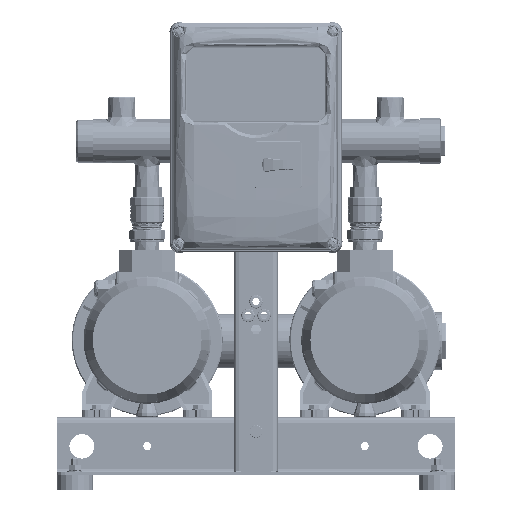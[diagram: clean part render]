
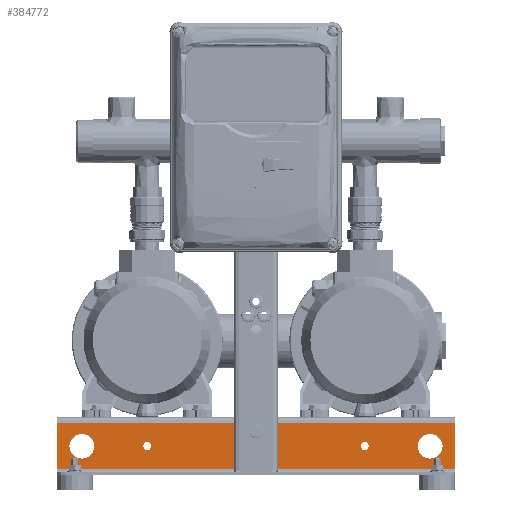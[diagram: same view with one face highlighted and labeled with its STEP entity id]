
A CAD part, top view. The second image highlights one B-rep face of the part: STEP entity #384772.
In plain terms, the highlighted planar face has unit normal (0, 0, 1) as drawn and (0, 0, -1) by its records, which use the part's own axes.
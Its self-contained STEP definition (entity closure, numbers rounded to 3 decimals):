
#378503=DIRECTION('',(1.,0.,0.));
#378504=VECTOR('',#378503,550.);
#378505=CARTESIAN_POINT('',(-275.,-8.,-150.));
#378506=LINE('',#378505,#378504);
#380733=DIRECTION('',(0.,1.,0.));
#380734=VECTOR('',#380733,64.);
#380735=CARTESIAN_POINT('',(-275.,-72.,-150.));
#380736=LINE('',#380735,#380734);
#380754=DIRECTION('',(1.,0.,0.));
#380755=VECTOR('',#380754,550.);
#380756=CARTESIAN_POINT('',(-275.,-72.,-150.));
#380757=LINE('',#380756,#380755);
#380784=DIRECTION('',(0.,1.,0.));
#380785=VECTOR('',#380784,26.);
#380786=CARTESIAN_POINT('',(-26.7,-40.,-150.));
#380787=LINE('',#380786,#380785);
#380791=DIRECTION('',(1.,0.,0.));
#380792=VECTOR('',#380791,3.6);
#380793=CARTESIAN_POINT('',(-30.3,-40.,-150.));
#380794=LINE('',#380793,#380792);
#380798=DIRECTION('',(0.,-1.,0.));
#380799=VECTOR('',#380798,26.);
#380800=CARTESIAN_POINT('',(-30.3,-14.,-150.));
#380801=LINE('',#380800,#380799);
#380805=DIRECTION('',(-1.,0.,0.));
#380806=VECTOR('',#380805,3.6);
#380807=CARTESIAN_POINT('',(-26.7,-14.,-150.));
#380808=LINE('',#380807,#380806);
#380812=DIRECTION('',(0.,1.,0.));
#380813=VECTOR('',#380812,26.);
#380814=CARTESIAN_POINT('',(30.3,-40.,-150.));
#380815=LINE('',#380814,#380813);
#380819=DIRECTION('',(1.,0.,0.));
#380820=VECTOR('',#380819,3.6);
#380821=CARTESIAN_POINT('',(26.7,-40.,-150.));
#380822=LINE('',#380821,#380820);
#380826=DIRECTION('',(0.,-1.,0.));
#380827=VECTOR('',#380826,26.);
#380828=CARTESIAN_POINT('',(26.7,-14.,-150.));
#380829=LINE('',#380828,#380827);
#380833=DIRECTION('',(-1.,0.,0.));
#380834=VECTOR('',#380833,3.6);
#380835=CARTESIAN_POINT('',(30.3,-14.,-150.));
#380836=LINE('',#380835,#380834);
#380840=CARTESIAN_POINT('',(0.,-20.,-150.));
#380841=DIRECTION('',(0.,0.,-1.));
#380842=DIRECTION('',(1.,0.,0.));
#380843=AXIS2_PLACEMENT_3D('',#380840,#380841,#380842);
#380848=CARTESIAN_POINT('',(0.,-20.,-150.));
#380849=DIRECTION('',(0.,0.,-1.));
#380850=DIRECTION('',(-1.,0.,0.));
#380851=AXIS2_PLACEMENT_3D('',#380848,#380849,#380850);
#380856=CARTESIAN_POINT('',(-240.,-40.,-150.));
#380857=DIRECTION('',(0.,0.,1.));
#380858=DIRECTION('',(-1.,0.,0.));
#380859=AXIS2_PLACEMENT_3D('',#380856,#380857,#380858);
#380864=CARTESIAN_POINT('',(-240.,-40.,-150.));
#380865=DIRECTION('',(0.,0.,1.));
#380866=DIRECTION('',(1.,0.,0.));
#380867=AXIS2_PLACEMENT_3D('',#380864,#380865,#380866);
#380872=CARTESIAN_POINT('',(240.,-40.,-150.));
#380873=DIRECTION('',(0.,0.,1.));
#380874=DIRECTION('',(-1.,0.,0.));
#380875=AXIS2_PLACEMENT_3D('',#380872,#380873,#380874);
#380880=CARTESIAN_POINT('',(240.,-40.,-150.));
#380881=DIRECTION('',(0.,0.,1.));
#380882=DIRECTION('',(1.,0.,0.));
#380883=AXIS2_PLACEMENT_3D('',#380880,#380881,#380882);
#380888=CARTESIAN_POINT('',(-150.,-40.,-150.));
#380889=DIRECTION('',(0.,0.,1.));
#380890=DIRECTION('',(1.,0.,0.));
#380891=AXIS2_PLACEMENT_3D('',#380888,#380889,#380890);
#380896=CARTESIAN_POINT('',(-150.,-40.,-150.));
#380897=DIRECTION('',(0.,0.,1.));
#380898=DIRECTION('',(-1.,0.,0.));
#380899=AXIS2_PLACEMENT_3D('',#380896,#380897,#380898);
#380904=CARTESIAN_POINT('',(150.,-40.,-150.));
#380905=DIRECTION('',(0.,0.,-1.));
#380906=DIRECTION('',(-1.,0.,0.));
#380907=AXIS2_PLACEMENT_3D('',#380904,#380905,#380906);
#380912=CARTESIAN_POINT('',(150.,-40.,-150.));
#380913=DIRECTION('',(0.,0.,-1.));
#380914=DIRECTION('',(1.,0.,0.));
#380915=AXIS2_PLACEMENT_3D('',#380912,#380913,#380914);
#380934=DIRECTION('',(0.,1.,0.));
#380935=VECTOR('',#380934,64.);
#380936=CARTESIAN_POINT('',(275.,-72.,-150.));
#380937=LINE('',#380936,#380935);
#382499=CARTESIAN_POINT('',(-275.,-72.,-150.));
#382500=CARTESIAN_POINT('',(-275.,-8.,-150.));
#382501=VERTEX_POINT('',#382499);
#382502=VERTEX_POINT('',#382500);
#382503=CARTESIAN_POINT('',(275.,-72.,-150.));
#382504=CARTESIAN_POINT('',(275.,-8.,-150.));
#382505=VERTEX_POINT('',#382503);
#382506=VERTEX_POINT('',#382504);
#382859=CARTESIAN_POINT('',(-26.7,-40.,-150.));
#382860=CARTESIAN_POINT('',(-26.7,-14.,-150.));
#382861=VERTEX_POINT('',#382859);
#382862=VERTEX_POINT('',#382860);
#382863=CARTESIAN_POINT('',(-30.3,-14.,-150.));
#382864=VERTEX_POINT('',#382863);
#382865=CARTESIAN_POINT('',(-30.3,-40.,-150.));
#382866=VERTEX_POINT('',#382865);
#382867=CARTESIAN_POINT('',(30.3,-40.,-150.));
#382868=CARTESIAN_POINT('',(30.3,-14.,-150.));
#382869=VERTEX_POINT('',#382867);
#382870=VERTEX_POINT('',#382868);
#382871=CARTESIAN_POINT('',(26.7,-14.,-150.));
#382872=VERTEX_POINT('',#382871);
#382873=CARTESIAN_POINT('',(26.7,-40.,-150.));
#382874=VERTEX_POINT('',#382873);
#382891=CARTESIAN_POINT('',(6.25,-20.,-150.));
#382892=CARTESIAN_POINT('',(-6.25,-20.,-150.));
#382893=VERTEX_POINT('',#382891);
#382894=VERTEX_POINT('',#382892);
#382915=CARTESIAN_POINT('',(-257.5,-40.,-150.));
#382916=CARTESIAN_POINT('',(-222.5,-40.,-150.));
#382917=VERTEX_POINT('',#382915);
#382918=VERTEX_POINT('',#382916);
#382919=CARTESIAN_POINT('',(222.5,-40.,-150.));
#382920=CARTESIAN_POINT('',(257.5,-40.,-150.));
#382921=VERTEX_POINT('',#382919);
#382922=VERTEX_POINT('',#382920);
#383015=CARTESIAN_POINT('',(-143.75,-40.,-150.));
#383016=CARTESIAN_POINT('',(-156.25,-40.,-150.));
#383017=VERTEX_POINT('',#383015);
#383018=VERTEX_POINT('',#383016);
#383027=CARTESIAN_POINT('',(143.75,-40.,-150.));
#383029=VERTEX_POINT('',#383027);
#383035=CARTESIAN_POINT('',(156.25,-40.,-150.));
#383037=VERTEX_POINT('',#383035);
#384710=CARTESIAN_POINT('',(-275.,-76.,-150.));
#384711=DIRECTION('',(0.,0.,-1.));
#384712=DIRECTION('',(0.,1.,0.));
#384713=AXIS2_PLACEMENT_3D('',#384710,#384711,#384712);
#384714=PLANE('',#384713);
#384715=ORIENTED_EDGE('',*,*,#384663,.F.);
#384716=ORIENTED_EDGE('',*,*,#384700,.T.);
#384718=ORIENTED_EDGE('',*,*,#384717,.T.);
#384719=ORIENTED_EDGE('',*,*,#383771,.F.);
#384720=EDGE_LOOP('',(#384715,#384716,#384718,#384719));
#384721=FACE_OUTER_BOUND('',#384720,.F.);
#384723=ORIENTED_EDGE('',*,*,#384722,.F.);
#384725=ORIENTED_EDGE('',*,*,#384724,.F.);
#384727=ORIENTED_EDGE('',*,*,#384726,.F.);
#384729=ORIENTED_EDGE('',*,*,#384728,.F.);
#384730=EDGE_LOOP('',(#384723,#384725,#384727,#384729));
#384731=FACE_BOUND('',#384730,.F.);
#384733=ORIENTED_EDGE('',*,*,#384732,.F.);
#384735=ORIENTED_EDGE('',*,*,#384734,.F.);
#384737=ORIENTED_EDGE('',*,*,#384736,.F.);
#384739=ORIENTED_EDGE('',*,*,#384738,.F.);
#384740=EDGE_LOOP('',(#384733,#384735,#384737,#384739));
#384741=FACE_BOUND('',#384740,.F.);
#384743=ORIENTED_EDGE('',*,*,#384742,.T.);
#384745=ORIENTED_EDGE('',*,*,#384744,.T.);
#384746=EDGE_LOOP('',(#384743,#384745));
#384747=FACE_BOUND('',#384746,.F.);
#384749=ORIENTED_EDGE('',*,*,#384748,.F.);
#384751=ORIENTED_EDGE('',*,*,#384750,.F.);
#384752=EDGE_LOOP('',(#384749,#384751));
#384753=FACE_BOUND('',#384752,.F.);
#384755=ORIENTED_EDGE('',*,*,#384754,.F.);
#384757=ORIENTED_EDGE('',*,*,#384756,.F.);
#384758=EDGE_LOOP('',(#384755,#384757));
#384759=FACE_BOUND('',#384758,.F.);
#384761=ORIENTED_EDGE('',*,*,#384760,.F.);
#384763=ORIENTED_EDGE('',*,*,#384762,.F.);
#384764=EDGE_LOOP('',(#384761,#384763));
#384765=FACE_BOUND('',#384764,.F.);
#384767=ORIENTED_EDGE('',*,*,#384766,.T.);
#384769=ORIENTED_EDGE('',*,*,#384768,.T.);
#384770=EDGE_LOOP('',(#384767,#384769));
#384771=FACE_BOUND('',#384770,.F.);
#380844=CIRCLE('',#380843,6.25);
#380852=CIRCLE('',#380851,6.25);
#380860=CIRCLE('',#380859,17.5);
#380868=CIRCLE('',#380867,17.5);
#380876=CIRCLE('',#380875,17.5);
#380884=CIRCLE('',#380883,17.5);
#380892=CIRCLE('',#380891,6.25);
#380900=CIRCLE('',#380899,6.25);
#380908=CIRCLE('',#380907,6.25);
#380916=CIRCLE('',#380915,6.25);
#383771=EDGE_CURVE('',#382502,#382506,#378506,.T.);
#384663=EDGE_CURVE('',#382501,#382502,#380736,.T.);
#384700=EDGE_CURVE('',#382501,#382505,#380757,.T.);
#384717=EDGE_CURVE('',#382505,#382506,#380937,.T.);
#384722=EDGE_CURVE('',#382861,#382862,#380787,.T.);
#384724=EDGE_CURVE('',#382866,#382861,#380794,.T.);
#384726=EDGE_CURVE('',#382864,#382866,#380801,.T.);
#384728=EDGE_CURVE('',#382862,#382864,#380808,.T.);
#384732=EDGE_CURVE('',#382869,#382870,#380815,.T.);
#384734=EDGE_CURVE('',#382874,#382869,#380822,.T.);
#384736=EDGE_CURVE('',#382872,#382874,#380829,.T.);
#384738=EDGE_CURVE('',#382870,#382872,#380836,.T.);
#384742=EDGE_CURVE('',#382893,#382894,#380844,.T.);
#384744=EDGE_CURVE('',#382894,#382893,#380852,.T.);
#384748=EDGE_CURVE('',#382917,#382918,#380860,.T.);
#384750=EDGE_CURVE('',#382918,#382917,#380868,.T.);
#384754=EDGE_CURVE('',#382921,#382922,#380876,.T.);
#384756=EDGE_CURVE('',#382922,#382921,#380884,.T.);
#384760=EDGE_CURVE('',#383017,#383018,#380892,.T.);
#384762=EDGE_CURVE('',#383018,#383017,#380900,.T.);
#384766=EDGE_CURVE('',#383029,#383037,#380908,.T.);
#384768=EDGE_CURVE('',#383037,#383029,#380916,.T.);
#384772=ADVANCED_FACE('',(#384721,#384731,#384741,#384747,#384753,#384759,
#384765,#384771),#384714,.T.);
